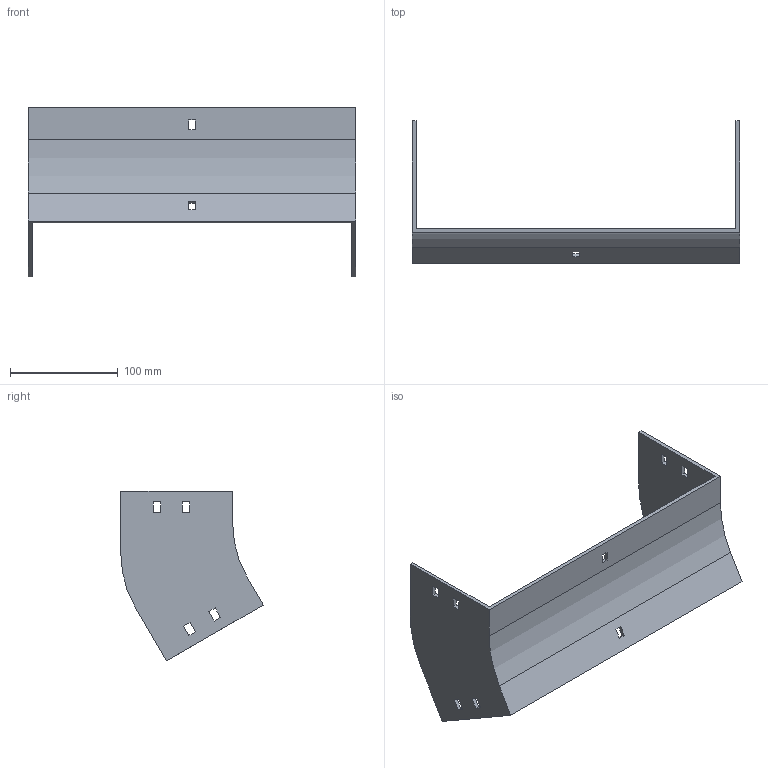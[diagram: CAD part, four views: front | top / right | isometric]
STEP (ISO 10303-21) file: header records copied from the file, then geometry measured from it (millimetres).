
FILE_DESCRIPTION (( 'STEP AP214' ), '1' );
FILE_NAME ('35F1D300.step', '2025-02-21T12:48:57', ( '' ), ( '' ), 'SwSTEP 2.0', 'SolidWorks 2023', '' );
FILE_SCHEMA (( 'AUTOMOTIVE_DESIGN' ));
Length unit declared in the file: millimetre
Products named in the file (1): 35F1D300
Bounding box: 304 x 132.4 x 157.98 mm (x, y, z)
Volume: 218361.5 mm3; surface area: 130652.2 mm2
Topology: 1 solids, 1 shells, 58 faces, 168 edges, 112 vertices
Faces by surface type: plane 54, cylinder 4
Entity records: 1943 total; most frequent: CARTESIAN_POINT 339, ORIENTED_EDGE 336, DIRECTION 294, EDGE_CURVE 168, LINE 160, VECTOR 160, VERTEX_POINT 112, EDGE_LOOP 78
